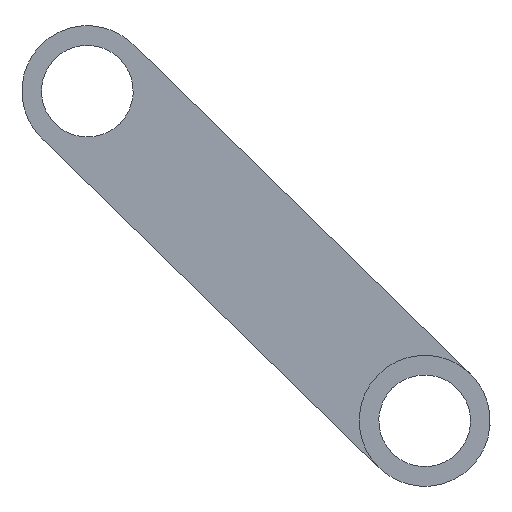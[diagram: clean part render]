
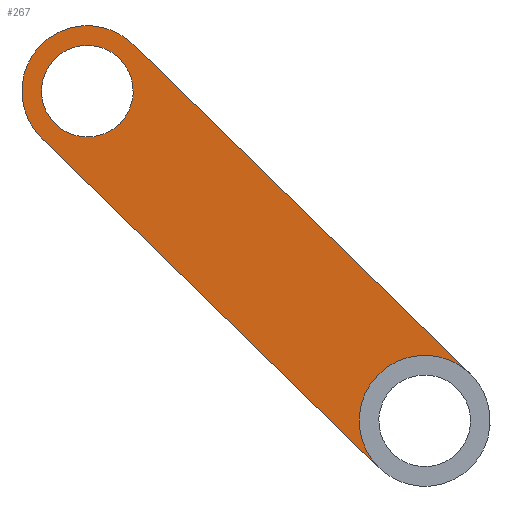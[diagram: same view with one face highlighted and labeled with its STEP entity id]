
A CAD part, front view. The second image highlights one B-rep face of the part: STEP entity #267.
In plain terms, the highlighted planar face has unit normal (0, -1, 0).
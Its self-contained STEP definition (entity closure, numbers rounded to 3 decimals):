
#129=CARTESIAN_POINT('',(51.247,-2.,47.788));
#130=VERTEX_POINT('',#129);
#144=CARTESIAN_POINT('',(47.753,-2.,44.212));
#145=VERTEX_POINT('',#144);
#210=CARTESIAN_POINT('',(49.352,-2.,58.727));
#211=DIRECTION('',(-0.699,0.,-0.715));
#212=DIRECTION('',(0.,-1.,0.));
#213=AXIS2_PLACEMENT_3D('',#210,#212,#211);
#214=PLANE('',#213);
#215=CARTESIAN_POINT('',(49.5,-2.,46.));
#216=DIRECTION('',(0.699,0.,0.715));
#217=DIRECTION('',(0.,-1.,0.));
#218=AXIS2_PLACEMENT_3D('',#215,#217,#216);
#219=CIRCLE('',#218,2.5);
#220=EDGE_CURVE('',#130,#145,#219,.T.);
#221=ORIENTED_EDGE('E5',*,*,#220,.F.);
#222=CARTESIAN_POINT('',(38.372,-2.,60.367));
#223=VERTEX_POINT('',#222);
#224=CARTESIAN_POINT('',(51.247,-2.,47.788));
#225=DIRECTION('',(-0.715,0.,0.699));
#226=VECTOR('',#225,18.);
#227=LINE('',#224,#226);
#228=EDGE_CURVE('',#130,#223,#227,.T.);
#229=ORIENTED_EDGE('E15',*,*,#228,.T.);
#230=CARTESIAN_POINT('',(34.878,-2.,56.791));
#231=VERTEX_POINT('',#230);
#232=CARTESIAN_POINT('',(36.625,-2.,58.579));
#233=DIRECTION('',(0.699,0.,0.715));
#234=DIRECTION('',(0.,-1.,0.));
#235=AXIS2_PLACEMENT_3D('',#232,#234,#233);
#236=CIRCLE('',#235,2.5);
#237=EDGE_CURVE('',#223,#231,#236,.T.);
#238=ORIENTED_EDGE('E16',*,*,#237,.T.);
#239=CARTESIAN_POINT('',(34.878,-2.,56.791));
#240=DIRECTION('',(0.715,0.,-0.699));
#241=VECTOR('',#240,18.);
#242=LINE('',#239,#241);
#243=EDGE_CURVE('',#231,#145,#242,.T.);
#244=ORIENTED_EDGE('E17',*,*,#243,.T.);
#245=EDGE_LOOP('',(#221,#229,#238,#244));
#246=FACE_OUTER_BOUND('',#245,.T.);
#247=CARTESIAN_POINT('',(37.848,-2.,59.831));
#248=VERTEX_POINT('',#247);
#249=CARTESIAN_POINT('',(35.402,-2.,57.327));
#250=VERTEX_POINT('',#249);
#251=CARTESIAN_POINT('',(36.625,-2.,58.579));
#252=DIRECTION('',(0.699,0.,0.715));
#253=DIRECTION('',(0.,1.,0.));
#254=AXIS2_PLACEMENT_3D('',#251,#253,#252);
#255=CIRCLE('',#254,1.75);
#256=EDGE_CURVE('',#248,#250,#255,.T.);
#257=ORIENTED_EDGE('E18',*,*,#256,.T.);
#258=CARTESIAN_POINT('',(36.625,-2.,58.579));
#259=DIRECTION('',(-0.699,0.,-0.715));
#260=DIRECTION('',(0.,1.,0.));
#261=AXIS2_PLACEMENT_3D('',#258,#260,#259);
#262=CIRCLE('',#261,1.75);
#263=EDGE_CURVE('',#250,#248,#262,.T.);
#264=ORIENTED_EDGE('E31',*,*,#263,.T.);
#265=EDGE_LOOP('',(#257,#264));
#266=FACE_BOUND('',#265,.T.);
#267=ADVANCED_FACE('F6',(#246,#266),#214,.T.);
